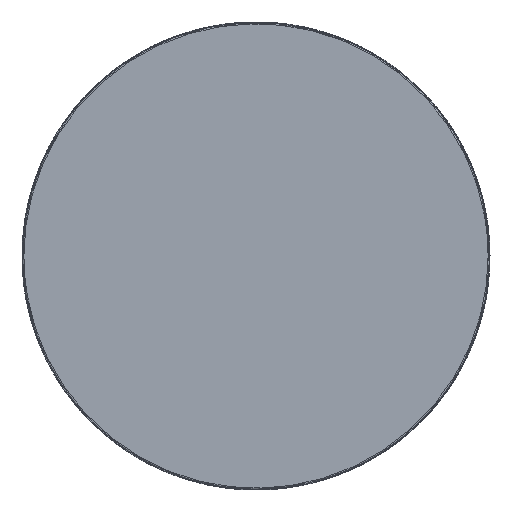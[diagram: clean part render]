
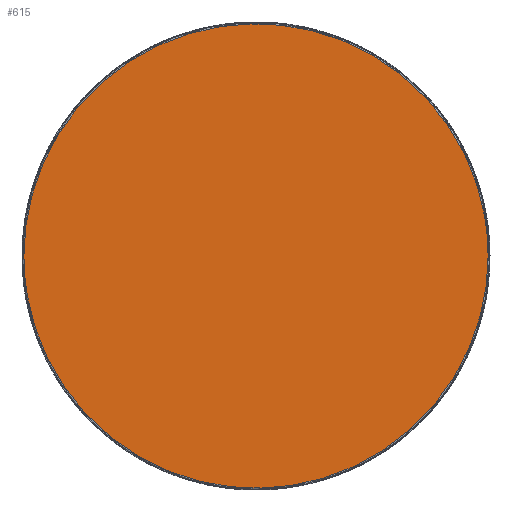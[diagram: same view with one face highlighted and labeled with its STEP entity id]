
A CAD part, front view. The second image highlights one B-rep face of the part: STEP entity #615.
In plain terms, the highlighted planar face has unit normal (0, -1, 0).
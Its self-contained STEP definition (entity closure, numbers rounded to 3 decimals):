
#615=ADVANCED_FACE('',(#916),#5550,.T.);
#916=FACE_OUTER_BOUND('',#1355,.T.);
#1355=EDGE_LOOP('',(#3100,#3101));
#3100=ORIENTED_EDGE('',*,*,#4002,.F.);
#3101=ORIENTED_EDGE('',*,*,#3994,.F.);
#3994=EDGE_CURVE('',#5466,#5470,#4875,.T.);
#4002=EDGE_CURVE('',#5470,#5466,#4883,.T.);
#4875=(
BOUNDED_CURVE()
B_SPLINE_CURVE(2,(#92091,#92092,#92093,#92094,#92095),.UNSPECIFIED.,.F.,
 .F.)
B_SPLINE_CURVE_WITH_KNOTS((3,2,3),(0.,779.115,1558.23),
 .UNSPECIFIED.)
CURVE()
GEOMETRIC_REPRESENTATION_ITEM()
RATIONAL_B_SPLINE_CURVE((1.,0.707,1.,0.707,1.))
REPRESENTATION_ITEM('')
);
#4883=(
BOUNDED_CURVE()
B_SPLINE_CURVE(2,(#92124,#92125,#92126,#92127,#92128),.UNSPECIFIED.,.F.,
 .F.)
B_SPLINE_CURVE_WITH_KNOTS((3,2,3),(1558.23,2337.345,3116.46),
 .UNSPECIFIED.)
CURVE()
GEOMETRIC_REPRESENTATION_ITEM()
RATIONAL_B_SPLINE_CURVE((1.,0.707,1.,0.707,1.))
REPRESENTATION_ITEM('')
);
#5466=VERTEX_POINT('',#92075);
#5470=VERTEX_POINT('',#92079);
#5550=PLANE('',#5805);
#5805=AXIS2_PLACEMENT_3D('',#92001,#5908,$);
#5908=DIRECTION('',(0.,-1.,0.));
#92001=CARTESIAN_POINT('',(-621.875,-9.25,621.875));
#92075=CARTESIAN_POINT('',(496.,-9.25,0.));
#92079=CARTESIAN_POINT('',(-496.,-9.25,0.));
#92091=CARTESIAN_POINT('',(496.,-9.25,0.));
#92092=CARTESIAN_POINT('',(496.,-9.25,-496.));
#92093=CARTESIAN_POINT('',(0.,-9.25,-496.));
#92094=CARTESIAN_POINT('',(-496.,-9.25,-496.));
#92095=CARTESIAN_POINT('',(-496.,-9.25,0.));
#92124=CARTESIAN_POINT('',(-496.,-9.25,0.));
#92125=CARTESIAN_POINT('',(-496.,-9.25,496.));
#92126=CARTESIAN_POINT('',(0.,-9.25,496.));
#92127=CARTESIAN_POINT('',(496.,-9.25,496.));
#92128=CARTESIAN_POINT('',(496.,-9.25,0.));
